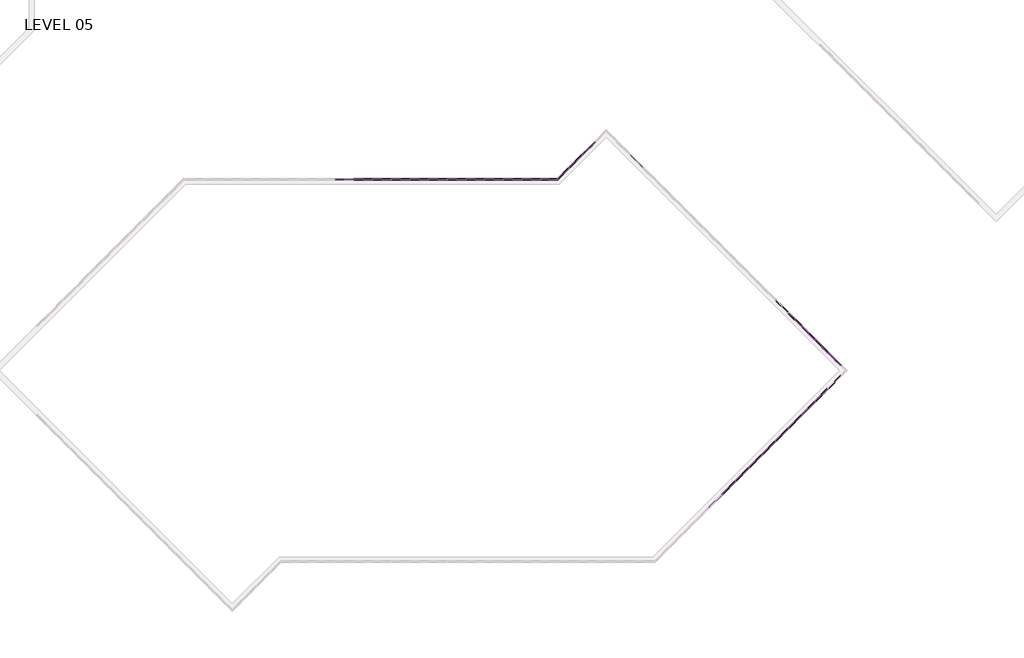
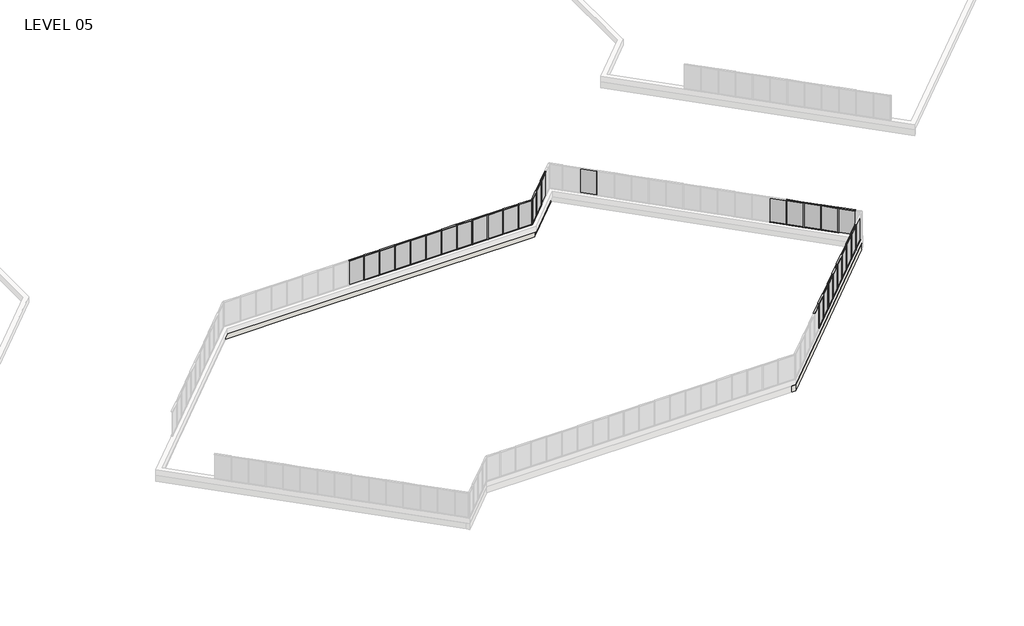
# One storey, part 8 of 17: 82 members, 30 plates, 3 walls.
"""IFC4 building model written with IfcOpenShell, lengths in millimetres."""

from ifc_helpers import new_model, si_unit, frame, origin, place, context, project, spatial, polyline, outline, extrude, faceted_brep, transform, mapped, element, save
from components import member_5247f267, member_e44af9ab, member_800970d4, member_45eb7f2e, plate_67294edd, plate_9c66726c, plate_129ab9d0

model = new_model("IFC4")

# Units and contexts
model_context = context("Model", 3, world=origin())
ifc_project = project(units=[si_unit("LENGTHUNIT", "METRE", prefix="MILLI")], contexts=[model_context])

# Site, building, storey
site = spatial("IfcSite", under=ifc_project)
building = spatial("IfcBuilding", under=site)
storey = spatial("IfcBuildingStorey", under=building, Name="LEVEL 05", Elevation=15824.2)

# Members
placement = place(None, origin())
member_shape = member_5247f267(model_context)
element("IfcMember", 1, ObjectType="Rectangular Mullion : 2\" x 4.5\" rectangular", at=placement, inside=storey, context=model_context, shape_type="MappedRepresentation", body=[
    mapped(member_shape, transform((55642.3943146, 1508.7210511, 15824.2), x_axis=(0.0, 0.0, -1.0), y_axis=(0.7071067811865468, -0.7071067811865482, 0.0), z_axis=(-0.7071067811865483, -0.7071067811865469, 0.0))),
])
element("IfcMember", 2, ObjectType="Rectangular Mullion : 2\" x 4.5\" rectangular", at=placement, inside=storey, context=model_context, shape_type="MappedRepresentation", body=[
    mapped(member_shape, transform((56720.0250491, 2586.3517856, 15824.2), x_axis=(0.0, 0.0, -1.0), y_axis=(0.7071067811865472, -0.7071067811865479, 0.0), z_axis=(-0.7071067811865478, -0.7071067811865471, 0.0))),
])
element("IfcMember", 3, ObjectType="Rectangular Mullion : 2\" x 4.5\" rectangular", at=placement, inside=storey, context=model_context, shape_type="MappedRepresentation", body=[
    mapped(member_shape, transform((57797.6557836, 3663.9825201, 15824.2), x_axis=(0.0, 0.0, -1.0), y_axis=(0.7071067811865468, -0.7071067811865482, 0.0), z_axis=(-0.7071067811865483, -0.7071067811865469, 0.0))),
])
element("IfcMember", 4, ObjectType="Rectangular Mullion : 2\" x 4.5\" rectangular", at=placement, inside=storey, context=model_context, shape_type="MappedRepresentation", body=[
    mapped(member_shape, transform((63185.8094563, 9052.1361928, 15824.2), x_axis=(0.0, 0.0, -1.0), y_axis=(0.7071067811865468, -0.7071067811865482, 0.0), z_axis=(-0.7071067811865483, -0.7071067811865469, 0.0))),
])
element("IfcMember", 5, ObjectType="Rectangular Mullion : 2\" x 4.5\" rectangular", at=placement, inside=storey, context=model_context, shape_type="MappedRepresentation", body=[
    mapped(member_shape, transform((54564.7635801, 431.0903165, 15824.2), x_axis=(0.0, 0.0, -1.0), y_axis=(0.7071067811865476, -0.7071067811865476, 0.0), z_axis=(-0.7071067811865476, -0.7071067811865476, 0.0))),
])
element("IfcMember", 6, ObjectType="Rectangular Mullion : 2\" x 4.5\" rectangular", at=placement, inside=storey, context=model_context, shape_type="MappedRepresentation", body=[
    mapped(member_shape, transform((59952.9172527, 5819.2439892, 15824.2), x_axis=(0.0, 0.0, -1.0), y_axis=(0.7071067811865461, -0.7071067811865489, 0.0), z_axis=(-0.7071067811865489, -0.7071067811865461, 0.0))),
])
element("IfcMember", 7, ObjectType="Rectangular Mullion : 2\" x 4.5\" rectangular", at=placement, inside=storey, context=model_context, shape_type="MappedRepresentation", body=[
    mapped(member_shape, transform((58875.2865182, 4741.6132547, 15824.2), x_axis=(0.0, 0.0, -1.0), y_axis=(0.7071067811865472, -0.7071067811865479, 0.0), z_axis=(-0.7071067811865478, -0.7071067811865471, 0.0))),
])
element("IfcMember", 8, ObjectType="Rectangular Mullion : 2\" x 4.5\" rectangular", at=placement, inside=storey, context=model_context, shape_type="MappedRepresentation", body=[
    mapped(member_shape, transform((61030.5479872, 6896.8747237, 15824.2), x_axis=(0.0, 0.0, -1.0), y_axis=(0.7071067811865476, -0.7071067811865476, 0.0), z_axis=(-0.7071067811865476, -0.7071067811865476, 0.0))),
])
element("IfcMember", 9, ObjectType="Rectangular Mullion : 2\" x 4.5\" rectangular", at=placement, inside=storey, context=model_context, shape_type="MappedRepresentation", body=[
    mapped(member_shape, transform((62108.1787218, 7974.5054582, 15824.2), x_axis=(0.0, 0.0, -1.0), y_axis=(0.7071067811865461, -0.7071067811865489, 0.0), z_axis=(-0.7071067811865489, -0.7071067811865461, 0.0))),
])
element("IfcMember", 10, ObjectType="Rectangular Mullion : 2\" x 4.5\" rectangular", at=placement, inside=storey, context=model_context, shape_type="MappedRepresentation", body=[
    mapped(member_shape, transform((63149.7097592, 11972.0792486, 15824.2), x_axis=(0.0, 0.0, -1.0), y_axis=(0.707106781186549, 0.7071067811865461, 0.0), z_axis=(0.707106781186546, -0.7071067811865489, 0.0))),
])
element("IfcMember", 11, ObjectType="Rectangular Mullion : 2\" x 4.5\" rectangular", at=placement, inside=storey, context=model_context, shape_type="MappedRepresentation", body=[
    mapped(member_shape, transform((62072.0790246, 13049.7099831, 15824.2), x_axis=(0.0, 0.0, -1.0), y_axis=(0.7071067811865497, 0.7071067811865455, 0.0), z_axis=(0.7071067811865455, -0.7071067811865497, 0.0))),
])
element("IfcMember", 12, ObjectType="Rectangular Mullion : 2\" x 4.5\" rectangular", at=placement, inside=storey, context=model_context, shape_type="MappedRepresentation", body=[
    mapped(member_shape, transform((60994.4482901, 14127.3407176, 15824.2), x_axis=(0.0, 0.0, -1.0), y_axis=(0.707106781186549, 0.7071067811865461, 0.0), z_axis=(0.707106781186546, -0.7071067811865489, 0.0))),
])
element("IfcMember", 13, ObjectType="Rectangular Mullion : 2\" x 4.5\" rectangular", at=placement, inside=storey, context=model_context, shape_type="MappedRepresentation", body=[
    mapped(member_shape, transform((59916.8175556, 15204.9714522, 15824.2), x_axis=(0.0, 0.0, -1.0), y_axis=(0.707106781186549, 0.7071067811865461, 0.0), z_axis=(0.707106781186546, -0.7071067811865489, 0.0))),
])
element("IfcMember", 14, ObjectType="Rectangular Mullion : 2\" x 4.5\" rectangular", at=placement, inside=storey, context=model_context, shape_type="MappedRepresentation", body=[
    mapped(member_shape, transform((43110.3767799, 28100.2657877, 15824.2), x_axis=(0.0, 0.0, -1.0), y_axis=(-0.7071067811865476, 0.7071067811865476, 0.0), z_axis=(0.7071067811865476, 0.7071067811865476, 0.0))),
])
element("IfcMember", 15, ObjectType="Rectangular Mullion : 2\" x 4.5\" rectangular", at=placement, inside=storey, context=model_context, shape_type="MappedRepresentation", body=[
    mapped(member_shape, transform((24517.35, 26080.1328721, 15824.2), x_axis=(0.0, 0.0, -1.0), y_axis=(0.0, -1.0, 0.0), z_axis=(-1.0, 0.0, 0.0))),
])
element("IfcMember", 16, ObjectType="Rectangular Mullion : 2\" x 4.5\" rectangular", at=placement, inside=storey, context=model_context, shape_type="MappedRepresentation", body=[
    mapped(member_shape, transform((27565.35, 26080.1328721, 15824.2), x_axis=(0.0, 0.0, -1.0), y_axis=(0.0, -1.0, 0.0), z_axis=(-1.0, 0.0, 0.0))),
])
element("IfcMember", 17, ObjectType="Rectangular Mullion : 2\" x 4.5\" rectangular", at=placement, inside=storey, context=model_context, shape_type="MappedRepresentation", body=[
    mapped(member_shape, transform((29089.35, 26080.1328721, 15824.2), x_axis=(0.0, 0.0, -1.0), y_axis=(0.0, -1.0, 0.0), z_axis=(-1.0, 0.0, 0.0))),
])
element("IfcMember", 18, ObjectType="Rectangular Mullion : 2\" x 4.5\" rectangular", at=placement, inside=storey, context=model_context, shape_type="MappedRepresentation", body=[
    mapped(member_shape, transform((30613.35, 26080.1328721, 15824.2), x_axis=(0.0, 0.0, -1.0), y_axis=(0.0, -1.0, 0.0), z_axis=(-1.0, 0.0, 0.0))),
])
element("IfcMember", 19, ObjectType="Rectangular Mullion : 2\" x 4.5\" rectangular", at=placement, inside=storey, context=model_context, shape_type="MappedRepresentation", body=[
    mapped(member_shape, transform((32137.35, 26080.1328721, 15824.2), x_axis=(0.0, 0.0, -1.0), y_axis=(0.0, -1.0, 0.0), z_axis=(-1.0, 0.0, 0.0))),
])
element("IfcMember", 20, ObjectType="Rectangular Mullion : 2\" x 4.5\" rectangular", at=placement, inside=storey, context=model_context, shape_type="MappedRepresentation", body=[
    mapped(member_shape, transform((35185.35, 26080.1328721, 15824.2), x_axis=(0.0, 0.0, -1.0), y_axis=(0.0, -1.0, 0.0), z_axis=(-1.0, 0.0, 0.0))),
])
element("IfcMember", 21, ObjectType="Rectangular Mullion : 2\" x 4.5\" rectangular", at=placement, inside=storey, context=model_context, shape_type="MappedRepresentation", body=[
    mapped(member_shape, transform((36709.35, 26080.1328721, 15824.2), x_axis=(0.0, 0.0, -1.0), y_axis=(0.0, -1.0, 0.0), z_axis=(-1.0, 0.0, 0.0))),
])
element("IfcMember", 22, ObjectType="Rectangular Mullion : 2\" x 4.5\" rectangular", at=placement, inside=storey, context=model_context, shape_type="MappedRepresentation", body=[
    mapped(member_shape, transform((38233.35, 26080.1328721, 15824.2), x_axis=(0.0, 0.0, -1.0), y_axis=(0.0, -1.0, 0.0), z_axis=(-1.0, 0.0, 0.0))),
])
element("IfcMember", 23, ObjectType="Rectangular Mullion : 2\" x 4.5\" rectangular", at=placement, inside=storey, context=model_context, shape_type="MappedRepresentation", body=[
    mapped(member_shape, transform((33661.35, 26080.1328721, 15824.2), x_axis=(0.0, 0.0, -1.0), y_axis=(0.0, -1.0, 0.0), z_axis=(-1.0, 0.0, 0.0))),
])
element("IfcMember", 24, ObjectType="Rectangular Mullion : 2\" x 4.5\" rectangular", at=placement, inside=storey, context=model_context, shape_type="MappedRepresentation", body=[
    mapped(member_shape, transform((26041.35, 26080.1328721, 15824.2), x_axis=(0.0, 0.0, -1.0), y_axis=(0.0, -1.0, 0.0), z_axis=(-1.0, 0.0, 0.0))),
])
element("IfcMember", 25, ObjectType="Rectangular Mullion : 2\" x 4.5\" rectangular", at=placement, inside=storey, context=model_context, shape_type="MappedRepresentation", body=[
    mapped(member_shape, transform((55606.4732901, 1472.8000266, 18415.0), x_axis=(0.0, 0.0, 1.0), y_axis=(0.7071067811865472, -0.7071067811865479, 0.0), z_axis=(0.7071067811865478, 0.7071067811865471, 0.0))),
])
element("IfcMember", 26, ObjectType="Rectangular Mullion : 2\" x 4.5\" rectangular", at=placement, inside=storey, context=model_context, shape_type="MappedRepresentation", body=[
    mapped(member_shape, transform((56684.1040246, 2550.4307611, 18415.0), x_axis=(0.0, 0.0, 1.0), y_axis=(0.7071067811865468, -0.7071067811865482, 0.0), z_axis=(0.7071067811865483, 0.7071067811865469, 0.0))),
])
element("IfcMember", 27, ObjectType="Rectangular Mullion : 2\" x 4.5\" rectangular", at=placement, inside=storey, context=model_context, shape_type="MappedRepresentation", body=[
    mapped(member_shape, transform((57761.7347592, 3628.0614956, 18415.0), x_axis=(0.0, 0.0, 1.0), y_axis=(0.7071067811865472, -0.7071067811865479, 0.0), z_axis=(0.7071067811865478, 0.7071067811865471, 0.0))),
])
element("IfcMember", 28, ObjectType="Rectangular Mullion : 2\" x 4.5\" rectangular", at=placement, inside=storey, context=model_context, shape_type="MappedRepresentation", body=[
    mapped(member_shape, transform((63149.8884318, 9016.2151683, 18415.0), x_axis=(0.0, 0.0, 1.0), y_axis=(0.7071067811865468, -0.7071067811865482, 0.0), z_axis=(0.7071067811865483, 0.7071067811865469, 0.0))),
])
element("IfcMember", 29, ObjectType="Rectangular Mullion : 2\" x 4.5\" rectangular", at=placement, inside=storey, context=model_context, shape_type="MappedRepresentation", body=[
    mapped(member_shape, transform((54528.8425556, 395.1692921, 18415.0), x_axis=(0.0, 0.0, 1.0), y_axis=(0.7071067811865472, -0.7071067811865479, 0.0), z_axis=(0.7071067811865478, 0.7071067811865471, 0.0))),
])
element("IfcMember", 30, ObjectType="Rectangular Mullion : 2\" x 4.5\" rectangular", at=placement, inside=storey, context=model_context, shape_type="MappedRepresentation", body=[
    mapped(member_shape, transform((59916.9962282, 5783.3229647, 18415.0), x_axis=(0.0, 0.0, 1.0), y_axis=(0.7071067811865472, -0.7071067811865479, 0.0), z_axis=(0.7071067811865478, 0.7071067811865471, 0.0))),
])
element("IfcMember", 31, ObjectType="Rectangular Mullion : 2\" x 4.5\" rectangular", at=placement, inside=storey, context=model_context, shape_type="MappedRepresentation", body=[
    mapped(member_shape, transform((58839.3654937, 4705.6922302, 18415.0), x_axis=(0.0, 0.0, 1.0), y_axis=(0.7071067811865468, -0.7071067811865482, 0.0), z_axis=(0.7071067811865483, 0.7071067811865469, 0.0))),
])
element("IfcMember", 32, ObjectType="Rectangular Mullion : 2\" x 4.5\" rectangular", at=placement, inside=storey, context=model_context, shape_type="MappedRepresentation", body=[
    mapped(member_shape, transform((60994.6269627, 6860.9536992, 18415.0), x_axis=(0.0, 0.0, 1.0), y_axis=(0.7071067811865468, -0.7071067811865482, 0.0), z_axis=(0.7071067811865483, 0.7071067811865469, 0.0))),
])
element("IfcMember", 33, ObjectType="Rectangular Mullion : 2\" x 4.5\" rectangular", at=placement, inside=storey, context=model_context, shape_type="MappedRepresentation", body=[
    mapped(member_shape, transform((62072.2576973, 7938.5844338, 18415.0), x_axis=(0.0, 0.0, 1.0), y_axis=(0.7071067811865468, -0.7071067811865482, 0.0), z_axis=(0.7071067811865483, 0.7071067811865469, 0.0))),
])
element("IfcMember", 34, ObjectType="Rectangular Mullion : 2\" x 4.5\" rectangular", at=placement, inside=storey, context=model_context, shape_type="MappedRepresentation", body=[
    mapped(member_shape, transform((63185.6307836, 11936.1582241, 18415.0), x_axis=(0.0, 0.0, 1.0), y_axis=(0.707106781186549, 0.7071067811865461, 0.0), z_axis=(-0.707106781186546, 0.7071067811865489, 0.0))),
])
element("IfcMember", 35, ObjectType="Rectangular Mullion : 2\" x 4.5\" rectangular", at=placement, inside=storey, context=model_context, shape_type="MappedRepresentation", body=[
    mapped(member_shape, transform((62108.0000491, 13013.7889586, 18415.0), x_axis=(0.0, 0.0, 1.0), y_axis=(0.7071067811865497, 0.7071067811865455, 0.0), z_axis=(-0.7071067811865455, 0.7071067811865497, 0.0))),
])
element("IfcMember", 36, ObjectType="Rectangular Mullion : 2\" x 4.5\" rectangular", at=placement, inside=storey, context=model_context, shape_type="MappedRepresentation", body=[
    mapped(member_shape, transform((61030.3693146, 14091.4196932, 18415.0), x_axis=(0.0, 0.0, 1.0), y_axis=(0.7071067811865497, 0.7071067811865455, 0.0), z_axis=(-0.7071067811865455, 0.7071067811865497, 0.0))),
])
element("IfcMember", 37, ObjectType="Rectangular Mullion : 2\" x 4.5\" rectangular", at=placement, inside=storey, context=model_context, shape_type="MappedRepresentation", body=[
    mapped(member_shape, transform((59952.7385801, 15169.0504277, 18415.0), x_axis=(0.0, 0.0, 1.0), y_axis=(0.707106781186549, 0.7071067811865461, 0.0), z_axis=(-0.707106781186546, 0.7071067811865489, 0.0))),
])
element("IfcMember", 38, ObjectType="Rectangular Mullion : 2\" x 4.5\" rectangular", at=placement, inside=storey, context=model_context, shape_type="MappedRepresentation", body=[
    mapped(member_shape, transform((42068.6670699, 27058.5560776, 18415.0), x_axis=(0.0, 0.0, 1.0), y_axis=(-0.7071067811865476, 0.7071067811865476, 0.0), z_axis=(-0.7071067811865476, -0.7071067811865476, 0.0))),
])
element("IfcMember", 39, ObjectType="Rectangular Mullion : 2\" x 4.5\" rectangular", at=placement, inside=storey, context=model_context, shape_type="MappedRepresentation", body=[
    mapped(member_shape, transform((43146.2978044, 28136.1868122, 18415.0), x_axis=(0.0, 0.0, 1.0), y_axis=(-0.7071067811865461, 0.7071067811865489, 0.0), z_axis=(-0.7071067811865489, -0.7071067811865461, 0.0))),
])
element("IfcMember", 40, ObjectType="Rectangular Mullion : 2\" x 4.5\" rectangular", at=placement, inside=storey, context=model_context, shape_type="MappedRepresentation", body=[
    mapped(member_shape, transform((24466.55, 26080.1328721, 18415.0), x_axis=(0.0, 0.0, 1.0), y_axis=(0.0, -1.0, 0.0), z_axis=(1.0, 0.0, 0.0))),
])
element("IfcMember", 41, ObjectType="Rectangular Mullion : 2\" x 4.5\" rectangular", at=placement, inside=storey, context=model_context, shape_type="MappedRepresentation", body=[
    mapped(member_shape, transform((27514.55, 26080.1328721, 18415.0), x_axis=(0.0, 0.0, 1.0), y_axis=(0.0, -1.0, 0.0), z_axis=(1.0, 0.0, 0.0))),
])
element("IfcMember", 42, ObjectType="Rectangular Mullion : 2\" x 4.5\" rectangular", at=placement, inside=storey, context=model_context, shape_type="MappedRepresentation", body=[
    mapped(member_shape, transform((29038.55, 26080.1328721, 18415.0), x_axis=(0.0, 0.0, 1.0), y_axis=(0.0, -1.0, 0.0), z_axis=(1.0, 0.0, 0.0))),
])
element("IfcMember", 43, ObjectType="Rectangular Mullion : 2\" x 4.5\" rectangular", at=placement, inside=storey, context=model_context, shape_type="MappedRepresentation", body=[
    mapped(member_shape, transform((30562.55, 26080.1328721, 18415.0), x_axis=(0.0, 0.0, 1.0), y_axis=(0.0, -1.0, 0.0), z_axis=(1.0, 0.0, 0.0))),
])
element("IfcMember", 44, ObjectType="Rectangular Mullion : 2\" x 4.5\" rectangular", at=placement, inside=storey, context=model_context, shape_type="MappedRepresentation", body=[
    mapped(member_shape, transform((32086.55, 26080.1328721, 18415.0), x_axis=(0.0, 0.0, 1.0), y_axis=(0.0, -1.0, 0.0), z_axis=(1.0, 0.0, 0.0))),
])
element("IfcMember", 45, ObjectType="Rectangular Mullion : 2\" x 4.5\" rectangular", at=placement, inside=storey, context=model_context, shape_type="MappedRepresentation", body=[
    mapped(member_shape, transform((35134.55, 26080.1328721, 18415.0), x_axis=(0.0, 0.0, 1.0), y_axis=(0.0, -1.0, 0.0), z_axis=(1.0, 0.0, 0.0))),
])
element("IfcMember", 46, ObjectType="Rectangular Mullion : 2\" x 4.5\" rectangular", at=placement, inside=storey, context=model_context, shape_type="MappedRepresentation", body=[
    mapped(member_shape, transform((36658.55, 26080.1328721, 18415.0), x_axis=(0.0, 0.0, 1.0), y_axis=(0.0, -1.0, 0.0), z_axis=(1.0, 0.0, 0.0))),
])
element("IfcMember", 47, ObjectType="Rectangular Mullion : 2\" x 4.5\" rectangular", at=placement, inside=storey, context=model_context, shape_type="MappedRepresentation", body=[
    mapped(member_shape, transform((38182.55, 26080.1328721, 18415.0), x_axis=(0.0, 0.0, 1.0), y_axis=(0.0, -1.0, 0.0), z_axis=(1.0, 0.0, 0.0))),
])
element("IfcMember", 48, ObjectType="Rectangular Mullion : 2\" x 4.5\" rectangular", at=placement, inside=storey, context=model_context, shape_type="MappedRepresentation", body=[
    mapped(member_shape, transform((39706.55, 26080.1328721, 18415.0), x_axis=(0.0, 0.0, 1.0), y_axis=(0.0, -1.0, 0.0), z_axis=(1.0, 0.0, 0.0))),
])
element("IfcMember", 49, ObjectType="Rectangular Mullion : 2\" x 4.5\" rectangular", at=placement, inside=storey, context=model_context, shape_type="MappedRepresentation", body=[
    mapped(member_shape, transform((33610.55, 26080.1328721, 18415.0), x_axis=(0.0, 0.0, 1.0), y_axis=(0.0, -1.0, 0.0), z_axis=(1.0, 0.0, 0.0))),
])
element("IfcMember", 50, ObjectType="Rectangular Mullion : 2\" x 4.5\" rectangular", at=placement, inside=storey, context=model_context, shape_type="MappedRepresentation", body=[
    mapped(member_shape, transform((25990.55, 26080.1328721, 18415.0), x_axis=(0.0, 0.0, 1.0), y_axis=(0.0, -1.0, 0.0), z_axis=(1.0, 0.0, 0.0))),
])
member_2_shape = member_e44af9ab(model_context)
element("IfcMember", 51, ObjectType="Rectangular Mullion : 2\" x 4.5\" rectangular", at=placement, inside=storey, context=model_context, shape_type="MappedRepresentation", body=[
    mapped(member_2_shape, transform((55624.4338023, 1490.7605388, 15824.2), x_axis=(0.7071067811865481, 0.7071067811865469, 0.0), y_axis=(0.7071067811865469, -0.7071067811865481, 0.0), z_axis=(0.0, 0.0, -1.0))),
])
element("IfcMember", 52, ObjectType="Rectangular Mullion : 2\" x 4.5\" rectangular", at=placement, inside=storey, context=model_context, shape_type="MappedRepresentation", body=[
    mapped(member_2_shape, transform((56702.0645369, 2568.3912734, 15824.2), x_axis=(0.7071067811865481, 0.7071067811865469, 0.0), y_axis=(0.7071067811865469, -0.7071067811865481, 0.0), z_axis=(0.0, 0.0, -1.0))),
])
element("IfcMember", 53, ObjectType="Rectangular Mullion : 2\" x 4.5\" rectangular", at=placement, inside=storey, context=model_context, shape_type="MappedRepresentation", body=[
    mapped(member_2_shape, transform((57779.6952714, 3646.0220079, 15824.2), x_axis=(0.7071067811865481, 0.7071067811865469, 0.0), y_axis=(0.7071067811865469, -0.7071067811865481, 0.0), z_axis=(0.0, 0.0, -1.0))),
])
element("IfcMember", 54, ObjectType="Rectangular Mullion : 2\" x 4.5\" rectangular", at=placement, inside=storey, context=model_context, shape_type="MappedRepresentation", body=[
    mapped(member_2_shape, transform((63167.848944, 9034.1756805, 15824.2), x_axis=(0.7071067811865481, 0.7071067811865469, 0.0), y_axis=(0.7071067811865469, -0.7071067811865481, 0.0), z_axis=(0.0, 0.0, -1.0))),
])
element("IfcMember", 55, ObjectType="Rectangular Mullion : 2\" x 4.5\" rectangular", at=placement, inside=storey, context=model_context, shape_type="MappedRepresentation", body=[
    mapped(member_2_shape, transform((54546.8030678, 413.1298043, 15824.2), x_axis=(0.7071067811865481, 0.7071067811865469, 0.0), y_axis=(0.7071067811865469, -0.7071067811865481, 0.0), z_axis=(0.0, 0.0, -1.0))),
])
element("IfcMember", 56, ObjectType="Rectangular Mullion : 2\" x 4.5\" rectangular", at=placement, inside=storey, context=model_context, shape_type="MappedRepresentation", body=[
    mapped(member_2_shape, transform((59934.9567405, 5801.2834769, 15824.2), x_axis=(0.7071067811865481, 0.7071067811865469, 0.0), y_axis=(0.7071067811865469, -0.7071067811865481, 0.0), z_axis=(0.0, 0.0, -1.0))),
])
element("IfcMember", 57, ObjectType="Rectangular Mullion : 2\" x 4.5\" rectangular", at=placement, inside=storey, context=model_context, shape_type="MappedRepresentation", body=[
    mapped(member_2_shape, transform((58857.3260059, 4723.6527424, 15824.2), x_axis=(0.7071067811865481, 0.7071067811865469, 0.0), y_axis=(0.7071067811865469, -0.7071067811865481, 0.0), z_axis=(0.0, 0.0, -1.0))),
])
element("IfcMember", 58, ObjectType="Rectangular Mullion : 2\" x 4.5\" rectangular", at=placement, inside=storey, context=model_context, shape_type="MappedRepresentation", body=[
    mapped(member_2_shape, transform((61012.587475, 6878.9142115, 15824.2), x_axis=(0.7071067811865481, 0.7071067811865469, 0.0), y_axis=(0.7071067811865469, -0.7071067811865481, 0.0), z_axis=(0.0, 0.0, -1.0))),
])
element("IfcMember", 59, ObjectType="Rectangular Mullion : 2\" x 4.5\" rectangular", at=placement, inside=storey, context=model_context, shape_type="MappedRepresentation", body=[
    mapped(member_2_shape, transform((62090.2182095, 7956.544946, 15824.2), x_axis=(0.7071067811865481, 0.7071067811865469, 0.0), y_axis=(0.7071067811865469, -0.7071067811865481, 0.0), z_axis=(0.0, 0.0, -1.0))),
])
element("IfcMember", 60, ObjectType="Rectangular Mullion : 2\" x 4.5\" rectangular", at=placement, inside=storey, context=model_context, shape_type="MappedRepresentation", body=[
    mapped(member_2_shape, transform((63167.6702714, 11954.1187363, 15824.2), x_axis=(-0.7071067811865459, 0.7071067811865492, 0.0), y_axis=(0.7071067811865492, 0.7071067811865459, 0.0), z_axis=(0.0, 0.0, -1.0))),
])
element("IfcMember", 61, ObjectType="Rectangular Mullion : 2\" x 4.5\" rectangular", at=placement, inside=storey, context=model_context, shape_type="MappedRepresentation", body=[
    mapped(member_2_shape, transform((62090.0395369, 13031.7494709, 15824.2), x_axis=(-0.7071067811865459, 0.7071067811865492, 0.0), y_axis=(0.7071067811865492, 0.7071067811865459, 0.0), z_axis=(0.0, 0.0, -1.0))),
])
element("IfcMember", 62, ObjectType="Rectangular Mullion : 2\" x 4.5\" rectangular", at=placement, inside=storey, context=model_context, shape_type="MappedRepresentation", body=[
    mapped(member_2_shape, transform((61012.4088023, 14109.3802054, 15824.2), x_axis=(-0.7071067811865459, 0.7071067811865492, 0.0), y_axis=(0.7071067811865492, 0.7071067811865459, 0.0), z_axis=(0.0, 0.0, -1.0))),
])
element("IfcMember", 63, ObjectType="Rectangular Mullion : 2\" x 4.5\" rectangular", at=placement, inside=storey, context=model_context, shape_type="MappedRepresentation", body=[
    mapped(member_2_shape, transform((59934.7780678, 15187.0109399, 15824.2), x_axis=(-0.7071067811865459, 0.7071067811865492, 0.0), y_axis=(0.7071067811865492, 0.7071067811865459, 0.0), z_axis=(0.0, 0.0, -1.0))),
])
element("IfcMember", 64, ObjectType="Rectangular Mullion : 2\" x 4.5\" rectangular", at=placement, inside=storey, context=model_context, shape_type="MappedRepresentation", body=[
    mapped(member_2_shape, transform((42050.7065576, 27040.5955654, 15824.2), x_axis=(-0.7071067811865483, -0.7071067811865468, 0.0), y_axis=(-0.7071067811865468, 0.7071067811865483, 0.0), z_axis=(0.0, 0.0, -1.0))),
])
element("IfcMember", 65, ObjectType="Rectangular Mullion : 2\" x 4.5\" rectangular", at=placement, inside=storey, context=model_context, shape_type="MappedRepresentation", body=[
    mapped(member_2_shape, transform((43128.3372922, 28118.2262999, 15824.2), x_axis=(-0.7071067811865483, -0.7071067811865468, 0.0), y_axis=(-0.7071067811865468, 0.7071067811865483, 0.0), z_axis=(0.0, 0.0, -1.0))),
])
element("IfcMember", 66, ObjectType="Rectangular Mullion : 2\" x 4.5\" rectangular", at=placement, inside=storey, context=model_context, shape_type="MappedRepresentation", body=[
    mapped(member_2_shape, transform((24491.95, 26080.1328721, 15824.2), x_axis=(1.0, 0.0, 0.0), y_axis=(0.0, -1.0, 0.0), z_axis=(0.0, 0.0, -1.0))),
])
element("IfcMember", 67, ObjectType="Rectangular Mullion : 2\" x 4.5\" rectangular", at=placement, inside=storey, context=model_context, shape_type="MappedRepresentation", body=[
    mapped(member_2_shape, transform((27539.95, 26080.1328721, 15824.2), x_axis=(1.0, 0.0, 0.0), y_axis=(0.0, -1.0, 0.0), z_axis=(0.0, 0.0, -1.0))),
])
element("IfcMember", 68, ObjectType="Rectangular Mullion : 2\" x 4.5\" rectangular", at=placement, inside=storey, context=model_context, shape_type="MappedRepresentation", body=[
    mapped(member_2_shape, transform((29063.95, 26080.1328721, 15824.2), x_axis=(1.0, 0.0, 0.0), y_axis=(0.0, -1.0, 0.0), z_axis=(0.0, 0.0, -1.0))),
])
element("IfcMember", 69, ObjectType="Rectangular Mullion : 2\" x 4.5\" rectangular", at=placement, inside=storey, context=model_context, shape_type="MappedRepresentation", body=[
    mapped(member_2_shape, transform((30587.95, 26080.1328721, 15824.2), x_axis=(1.0, 0.0, 0.0), y_axis=(0.0, -1.0, 0.0), z_axis=(0.0, 0.0, -1.0))),
])
element("IfcMember", 70, ObjectType="Rectangular Mullion : 2\" x 4.5\" rectangular", at=placement, inside=storey, context=model_context, shape_type="MappedRepresentation", body=[
    mapped(member_2_shape, transform((32111.95, 26080.1328721, 15824.2), x_axis=(1.0, 0.0, 0.0), y_axis=(0.0, -1.0, 0.0), z_axis=(0.0, 0.0, -1.0))),
])
element("IfcMember", 71, ObjectType="Rectangular Mullion : 2\" x 4.5\" rectangular", at=placement, inside=storey, context=model_context, shape_type="MappedRepresentation", body=[
    mapped(member_2_shape, transform((35159.95, 26080.1328721, 15824.2), x_axis=(1.0, 0.0, 0.0), y_axis=(0.0, -1.0, 0.0), z_axis=(0.0, 0.0, -1.0))),
])
element("IfcMember", 72, ObjectType="Rectangular Mullion : 2\" x 4.5\" rectangular", at=placement, inside=storey, context=model_context, shape_type="MappedRepresentation", body=[
    mapped(member_2_shape, transform((36683.95, 26080.1328721, 15824.2), x_axis=(1.0, 0.0, 0.0), y_axis=(0.0, -1.0, 0.0), z_axis=(0.0, 0.0, -1.0))),
])
element("IfcMember", 73, ObjectType="Rectangular Mullion : 2\" x 4.5\" rectangular", at=placement, inside=storey, context=model_context, shape_type="MappedRepresentation", body=[
    mapped(member_2_shape, transform((38207.95, 26080.1328721, 15824.2), x_axis=(1.0, 0.0, 0.0), y_axis=(0.0, -1.0, 0.0), z_axis=(0.0, 0.0, -1.0))),
])
element("IfcMember", 74, ObjectType="Rectangular Mullion : 2\" x 4.5\" rectangular", at=placement, inside=storey, context=model_context, shape_type="MappedRepresentation", body=[
    mapped(member_2_shape, transform((39731.95, 26080.1328721, 15824.2), x_axis=(1.0, 0.0, 0.0), y_axis=(0.0, -1.0, 0.0), z_axis=(0.0, 0.0, -1.0))),
])
element("IfcMember", 75, ObjectType="Rectangular Mullion : 2\" x 4.5\" rectangular", at=placement, inside=storey, context=model_context, shape_type="MappedRepresentation", body=[
    mapped(member_2_shape, transform((33635.95, 26080.1328721, 15824.2), x_axis=(1.0, 0.0, 0.0), y_axis=(0.0, -1.0, 0.0), z_axis=(0.0, 0.0, -1.0))),
])
element("IfcMember", 76, ObjectType="Rectangular Mullion : 2\" x 4.5\" rectangular", at=placement, inside=storey, context=model_context, shape_type="MappedRepresentation", body=[
    mapped(member_2_shape, transform((26015.95, 26080.1328721, 15824.2), x_axis=(1.0, 0.0, 0.0), y_axis=(0.0, -1.0, 0.0), z_axis=(0.0, 0.0, -1.0))),
])
member_3_shape = member_800970d4(model_context)
element("IfcMember", 77, ObjectType="Rectangular Mullion : 2\" x 4.5\" rectangular", at=placement, inside=storey, context=model_context, shape_type="MappedRepresentation", body=[
    mapped(member_3_shape, transform((41090.2438644, 26080.1328721, 15824.2), x_axis=(-0.7071067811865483, -0.7071067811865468, 0.0), y_axis=(-0.7071067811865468, 0.7071067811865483, 0.0), z_axis=(0.0, 0.0, -1.0))),
])
element("IfcMember", 78, ObjectType="Rectangular Mullion : 2\" x 4.5\" rectangular", at=placement, inside=storey, context=model_context, shape_type="MappedRepresentation", body=[
    mapped(member_3_shape, transform((41090.2438644, 26080.1328721, 15824.2), x_axis=(1.0, 0.0, 0.0), y_axis=(0.0, -1.0, 0.0), z_axis=(0.0, 0.0, -1.0))),
])
member_4_shape = member_45eb7f2e(model_context)
element("IfcMember", 79, ObjectType="Rectangular Mullion : 2\" x 4.5\" rectangular", at=placement, inside=storey, context=model_context, shape_type="MappedRepresentation", body=[
    mapped(member_4_shape, transform((41126.1648889, 26116.0538966, 18415.0), x_axis=(0.0, 0.0, 1.0), y_axis=(-0.7071067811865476, 0.7071067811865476, 0.0), z_axis=(-0.7071067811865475, -0.7071067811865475, 0.0))),
])
element("IfcMember", 80, ObjectType="Rectangular Mullion : 2\" x 4.5\" rectangular", at=placement, inside=storey, context=model_context, shape_type="MappedRepresentation", body=[
    mapped(member_4_shape, transform((41039.4438644, 26080.1328721, 18415.0), x_axis=(0.0, 0.0, 1.0), y_axis=(0.0, -1.0, 0.0), z_axis=(1.0, 0.0, 0.0))),
])
element("IfcMember", 81, ObjectType="Rectangular Mullion : 2\" x 4.5\" rectangular", at=placement, inside=storey, context=model_context, shape_type="MappedRepresentation", body=[
    mapped(member_4_shape, transform((42032.7460454, 27022.6350531, 15824.2), x_axis=(0.0, 0.0, -1.0), y_axis=(-0.7071067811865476, 0.7071067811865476, 0.0), z_axis=(0.7071067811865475, 0.7071067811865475, 0.0))),
])
element("IfcMember", 82, ObjectType="Rectangular Mullion : 2\" x 4.5\" rectangular", at=placement, inside=storey, context=model_context, shape_type="MappedRepresentation", body=[
    mapped(member_4_shape, transform((39757.35, 26080.1328721, 15824.2), x_axis=(0.0, 0.0, -1.0), y_axis=(0.0, -1.0, 0.0), z_axis=(-1.0, 0.0, 0.0))),
])

# Plates
plate_shape = plate_67294edd(model_context)
element("IfcPlate", 83, ObjectType="System Panel : 1/4\" Glass", at=placement, inside=storey, context=model_context, shape_type="MappedRepresentation", body=[
    mapped(plate_shape, transform((56163.2491696, 2029.5759061, 15875.0), x_axis=(0.7071067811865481, 0.7071067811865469, 0.0), y_axis=(-0.7071067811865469, 0.7071067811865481, 0.0), z_axis=(0.0, 0.0, 1.0))),
])
element("IfcPlate", 84, ObjectType="System Panel : 1/4\" Glass", at=placement, inside=storey, context=model_context, shape_type="MappedRepresentation", body=[
    mapped(plate_shape, transform((57240.8799041, 3107.2066406, 15875.0), x_axis=(0.7071067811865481, 0.7071067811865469, 0.0), y_axis=(-0.7071067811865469, 0.7071067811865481, 0.0), z_axis=(0.0, 0.0, 1.0))),
])
element("IfcPlate", 85, ObjectType="System Panel : 1/4\" Glass", at=placement, inside=storey, context=model_context, shape_type="MappedRepresentation", body=[
    mapped(plate_shape, transform((58318.5106387, 4184.8373752, 15875.0), x_axis=(0.7071067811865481, 0.7071067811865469, 0.0), y_axis=(-0.7071067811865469, 0.7071067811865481, 0.0), z_axis=(0.0, 0.0, 1.0))),
])
element("IfcPlate", 86, ObjectType="System Panel : 1/4\" Glass", at=placement, inside=storey, context=model_context, shape_type="MappedRepresentation", body=[
    mapped(plate_shape, transform((63706.6643113, 9572.9910478, 15875.0), x_axis=(0.7071067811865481, 0.7071067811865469, 0.0), y_axis=(-0.7071067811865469, 0.7071067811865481, 0.0), z_axis=(0.0, 0.0, 1.0))),
])
element("IfcPlate", 87, ObjectType="System Panel : 1/4\" Glass", at=placement, inside=storey, context=model_context, shape_type="MappedRepresentation", body=[
    mapped(plate_shape, transform((55085.6184351, 951.9451716, 15875.0), x_axis=(0.7071067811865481, 0.7071067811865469, 0.0), y_axis=(-0.7071067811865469, 0.7071067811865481, 0.0), z_axis=(0.0, 0.0, 1.0))),
])
element("IfcPlate", 88, ObjectType="System Panel : 1/4\" Glass", at=placement, inside=storey, context=model_context, shape_type="MappedRepresentation", body=[
    mapped(plate_shape, transform((60473.7721077, 6340.0988442, 15875.0), x_axis=(0.7071067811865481, 0.7071067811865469, 0.0), y_axis=(-0.7071067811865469, 0.7071067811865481, 0.0), z_axis=(0.0, 0.0, 1.0))),
])
element("IfcPlate", 89, ObjectType="System Panel : 1/4\" Glass", at=placement, inside=storey, context=model_context, shape_type="MappedRepresentation", body=[
    mapped(plate_shape, transform((59396.1413732, 5262.4681097, 15875.0), x_axis=(0.7071067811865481, 0.7071067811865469, 0.0), y_axis=(-0.7071067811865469, 0.7071067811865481, 0.0), z_axis=(0.0, 0.0, 1.0))),
])
element("IfcPlate", 90, ObjectType="System Panel : 1/4\" Glass", at=placement, inside=storey, context=model_context, shape_type="MappedRepresentation", body=[
    mapped(plate_shape, transform((61551.4028422, 7417.7295787, 15875.0), x_axis=(0.7071067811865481, 0.7071067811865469, 0.0), y_axis=(-0.7071067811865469, 0.7071067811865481, 0.0), z_axis=(0.0, 0.0, 1.0))),
])
element("IfcPlate", 91, ObjectType="System Panel : 1/4\" Glass", at=placement, inside=storey, context=model_context, shape_type="MappedRepresentation", body=[
    mapped(plate_shape, transform((62629.0335768, 8495.3603133, 15875.0), x_axis=(0.7071067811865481, 0.7071067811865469, 0.0), y_axis=(-0.7071067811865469, 0.7071067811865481, 0.0), z_axis=(0.0, 0.0, 1.0))),
])
element("IfcPlate", 92, ObjectType="System Panel : 1/4\" Glass", at=placement, inside=storey, context=model_context, shape_type="MappedRepresentation", body=[
    mapped(plate_shape, transform((62628.8549041, 12492.9341036, 15875.0), x_axis=(-0.7071067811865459, 0.7071067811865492, 0.0), y_axis=(-0.7071067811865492, -0.7071067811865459, 0.0), z_axis=(0.0, 0.0, 1.0))),
])
element("IfcPlate", 93, ObjectType="System Panel : 1/4\" Glass", at=placement, inside=storey, context=model_context, shape_type="MappedRepresentation", body=[
    mapped(plate_shape, transform((61551.2241696, 13570.5648381, 15875.0), x_axis=(-0.7071067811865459, 0.7071067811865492, 0.0), y_axis=(-0.7071067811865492, -0.7071067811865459, 0.0), z_axis=(0.0, 0.0, 1.0))),
])
element("IfcPlate", 94, ObjectType="System Panel : 1/4\" Glass", at=placement, inside=storey, context=model_context, shape_type="MappedRepresentation", body=[
    mapped(plate_shape, transform((60473.5934351, 14648.1955727, 15875.0), x_axis=(-0.7071067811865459, 0.7071067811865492, 0.0), y_axis=(-0.7071067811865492, -0.7071067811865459, 0.0), z_axis=(0.0, 0.0, 1.0))),
])
element("IfcPlate", 95, ObjectType="System Panel : 1/4\" Glass", at=placement, inside=storey, context=model_context, shape_type="MappedRepresentation", body=[
    mapped(plate_shape, transform((59395.9627005, 15725.8263072, 15875.0), x_axis=(-0.7071067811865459, 0.7071067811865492, 0.0), y_axis=(-0.7071067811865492, -0.7071067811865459, 0.0), z_axis=(0.0, 0.0, 1.0))),
])
element("IfcPlate", 96, ObjectType="System Panel : 1/4\" Glass", at=placement, inside=storey, context=model_context, shape_type="MappedRepresentation", body=[
    mapped(plate_shape, transform((63706.4856387, 11415.3033691, 15875.0), x_axis=(-0.7071067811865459, 0.7071067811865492, 0.0), y_axis=(-0.7071067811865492, -0.7071067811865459, 0.0), z_axis=(0.0, 0.0, 1.0))),
])
element("IfcPlate", 97, ObjectType="System Panel : 1/4\" Glass", at=placement, inside=storey, context=model_context, shape_type="MappedRepresentation", body=[
    mapped(plate_shape, transform((47542.381966, 27579.4070417, 15875.0), x_axis=(-0.7071067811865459, 0.7071067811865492, 0.0), y_axis=(-0.7071067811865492, -0.7071067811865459, 0.0), z_axis=(0.0, 0.0, 1.0))),
])
element("IfcPlate", 98, ObjectType="System Panel : 1/4\" Glass", at=placement, inside=storey, context=model_context, shape_type="MappedRepresentation", body=[
    mapped(plate_shape, transform((43667.1526594, 28657.0416672, 15875.0), x_axis=(-0.7071067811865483, -0.7071067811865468, 0.0), y_axis=(0.7071067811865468, -0.7071067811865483, 0.0), z_axis=(0.0, 0.0, 1.0))),
])
element("IfcPlate", 99, ObjectType="System Panel : 1/4\" Glass", at=placement, inside=storey, context=model_context, shape_type="MappedRepresentation", body=[
    mapped(plate_shape, transform((42589.5219249, 27579.4109327, 15875.0), x_axis=(-0.7071067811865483, -0.7071067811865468, 0.0), y_axis=(0.7071067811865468, -0.7071067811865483, 0.0), z_axis=(0.0, 0.0, 1.0))),
])
element("IfcPlate", 100, ObjectType="System Panel : 1/4\" Glass", at=placement, inside=storey, context=model_context, shape_type="MappedRepresentation", body=[
    mapped(plate_shape, transform((23729.95, 26080.1328721, 15875.0), x_axis=(1.0, 0.0, 0.0), y_axis=(0.0, 1.0, 0.0), z_axis=(0.0, 0.0, 1.0))),
])
element("IfcPlate", 101, ObjectType="System Panel : 1/4\" Glass", at=placement, inside=storey, context=model_context, shape_type="MappedRepresentation", body=[
    mapped(plate_shape, transform((25253.95, 26080.1328721, 15875.0), x_axis=(1.0, 0.0, 0.0), y_axis=(0.0, 1.0, 0.0), z_axis=(0.0, 0.0, 1.0))),
])
element("IfcPlate", 102, ObjectType="System Panel : 1/4\" Glass", at=placement, inside=storey, context=model_context, shape_type="MappedRepresentation", body=[
    mapped(plate_shape, transform((28301.95, 26080.1328721, 15875.0), x_axis=(1.0, 0.0, 0.0), y_axis=(0.0, 1.0, 0.0), z_axis=(0.0, 0.0, 1.0))),
])
element("IfcPlate", 103, ObjectType="System Panel : 1/4\" Glass", at=placement, inside=storey, context=model_context, shape_type="MappedRepresentation", body=[
    mapped(plate_shape, transform((29825.95, 26080.1328721, 15875.0), x_axis=(1.0, 0.0, 0.0), y_axis=(0.0, 1.0, 0.0), z_axis=(0.0, 0.0, 1.0))),
])
element("IfcPlate", 104, ObjectType="System Panel : 1/4\" Glass", at=placement, inside=storey, context=model_context, shape_type="MappedRepresentation", body=[
    mapped(plate_shape, transform((31349.95, 26080.1328721, 15875.0), x_axis=(1.0, 0.0, 0.0), y_axis=(0.0, 1.0, 0.0), z_axis=(0.0, 0.0, 1.0))),
])
element("IfcPlate", 105, ObjectType="System Panel : 1/4\" Glass", at=placement, inside=storey, context=model_context, shape_type="MappedRepresentation", body=[
    mapped(plate_shape, transform((32873.95, 26080.1328721, 15875.0), x_axis=(1.0, 0.0, 0.0), y_axis=(0.0, 1.0, 0.0), z_axis=(0.0, 0.0, 1.0))),
])
element("IfcPlate", 106, ObjectType="System Panel : 1/4\" Glass", at=placement, inside=storey, context=model_context, shape_type="MappedRepresentation", body=[
    mapped(plate_shape, transform((35921.95, 26080.1328721, 15875.0), x_axis=(1.0, 0.0, 0.0), y_axis=(0.0, 1.0, 0.0), z_axis=(0.0, 0.0, 1.0))),
])
element("IfcPlate", 107, ObjectType="System Panel : 1/4\" Glass", at=placement, inside=storey, context=model_context, shape_type="MappedRepresentation", body=[
    mapped(plate_shape, transform((37445.95, 26080.1328721, 15875.0), x_axis=(1.0, 0.0, 0.0), y_axis=(0.0, 1.0, 0.0), z_axis=(0.0, 0.0, 1.0))),
])
element("IfcPlate", 108, ObjectType="System Panel : 1/4\" Glass", at=placement, inside=storey, context=model_context, shape_type="MappedRepresentation", body=[
    mapped(plate_shape, transform((38969.95, 26080.1328721, 15875.0), x_axis=(1.0, 0.0, 0.0), y_axis=(0.0, 1.0, 0.0), z_axis=(0.0, 0.0, 1.0))),
])
element("IfcPlate", 109, ObjectType="System Panel : 1/4\" Glass", at=placement, inside=storey, context=model_context, shape_type="MappedRepresentation", body=[
    mapped(plate_shape, transform((34397.95, 26080.1328721, 15875.0), x_axis=(1.0, 0.0, 0.0), y_axis=(0.0, 1.0, 0.0), z_axis=(0.0, 0.0, 1.0))),
])
element("IfcPlate", 110, ObjectType="System Panel : 1/4\" Glass", at=placement, inside=storey, context=model_context, shape_type="MappedRepresentation", body=[
    mapped(plate_shape, transform((26777.95, 26080.1328721, 15875.0), x_axis=(1.0, 0.0, 0.0), y_axis=(0.0, 1.0, 0.0), z_axis=(0.0, 0.0, 1.0))),
])
plate_2_shape = plate_9c66726c(model_context)
element("IfcPlate", 111, ObjectType="System Panel : 1/4\" Glass", at=placement, inside=storey, context=model_context, shape_type="MappedRepresentation", body=[
    mapped(plate_2_shape, transform((40398.3969322, 26080.1328721, 15875.0), x_axis=(1.0, 0.0, 0.0), y_axis=(0.0, 1.0, 0.0), z_axis=(0.0, 0.0, 1.0))),
])
plate_3_shape = plate_129ab9d0(model_context)
element("IfcPlate", 112, ObjectType="System Panel : 1/4\" Glass", at=placement, inside=storey, context=model_context, shape_type="MappedRepresentation", body=[
    mapped(plate_3_shape, transform((41579.4554671, 26569.3444749, 15875.0), x_axis=(-0.7071067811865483, -0.7071067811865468, 0.0), y_axis=(0.7071067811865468, -0.7071067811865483, 0.0), z_axis=(0.0, 0.0, 1.0))),
])

# Walls
element("IfcWall", 113, ObjectType="01-CONCRETE-12", at=placement, inside=storey, context=model_context, shape_type="Brep", body=[
    faceted_brep([(10281.7715593, 25832.4828721, 14643.1), (10712.8238531, 25832.4828721, 14643.1), (10995.0863917, 25832.4828721, 14643.1), (18091.15, 25832.4828721, 14643.1), (18700.75, 25832.4828721, 14643.1), (25711.15, 25832.4828721, 14643.1), (26320.75, 25832.4828721, 14643.1), (33331.15, 25832.4828721, 14643.1), (33940.75, 25832.4828721, 14643.1), (40951.15, 25832.4828721, 14643.1), (41192.8238531, 25832.4828721, 14643.1), (41192.8238531, 25832.4828721, 15265.4), (40951.15, 25832.4828721, 15265.4), (33940.75, 25832.4828721, 15265.4), (33331.15, 25832.4828721, 15265.4), (26320.75, 25832.4828721, 15265.4), (25711.15, 25832.4828721, 15265.4), (18700.75, 25832.4828721, 15265.4), (18091.15, 25832.4828721, 15265.4), (10995.0863917, 25832.4828721, 15265.4), (10712.8238531, 25832.4828721, 15265.4), (10281.7715593, 25832.4828721, 15265.4), (10586.5715593, 26137.2828721, 14643.1), (10586.5715593, 26137.2828721, 15265.4), (41066.5715593, 26137.2828721, 15265.4), (41497.6238531, 26137.2828721, 15265.4), (41497.6238531, 26137.2828721, 14643.1), (41066.5715593, 26137.2828721, 14643.1), (41243.6238531, 25883.2828721, 14643.1), (41243.6238531, 25883.2828721, 15265.4)], [[[0, 1, 2, 3, 4, 5, 6, 7, 8, 9, 10, 11, 12, 13, 14, 15, 16, 17, 18, 19, 20, 21]], [[22, 23, 24, 25, 26, 27]], [[10, 9, 8, 7, 6, 5, 4, 3, 2, 1, 0, 22, 27, 26, 28]], [[21, 20, 19, 18, 17, 16, 15, 14, 13, 12, 11, 29, 25, 24, 23]], [[11, 10, 28, 26, 25, 29]], [[0, 21, 23, 22]]]),
])
element("IfcWall", 114, ObjectType="01-CONCRETE-12", at=placement, inside=storey, context=model_context, shape_type="SweptSolid", body=[
    extrude(outline(polyline([(45065.95, 29705.609019), (41497.6238531, 26137.2828721), (41066.5715593, 26137.2828721), (44850.4238531, 29921.1351659), (45065.95, 29705.609019)])), frame((0.0, 0.0, 14643.1), z_axis=(0.0, 0.0, 1.0), x_axis=(1.0, 0.0, 0.0)), (0.0, 0.0, 1.0), 622.3),
])
element("IfcWall", 115, ObjectType="01-CONCRETE-12", at=placement, inside=storey, context=model_context, shape_type="Brep", body=[
    faceted_brep([(64277.5011469, 10494.0578721, 14643.1), (48939.0761469, -4844.3671279, 14643.1), (48634.2761469, -5149.1671279, 14643.1), (48634.2761469, -5149.1671279, 15265.4), (48939.0761469, -4844.3671279, 15265.4), (64277.5011469, 10494.0578721, 15265.4), (64493.0272938, 10278.5317252, 14643.1), (64493.0272938, 10278.5317252, 15265.4), (49065.3284407, -5149.1671279, 15265.4), (49065.3284407, -5149.1671279, 14643.1)], [[[0, 1, 2, 3, 4, 5]], [[6, 7, 8, 9]], [[2, 1, 0, 6, 9]], [[5, 4, 3, 8, 7]], [[3, 2, 9, 8]], [[0, 5, 7, 6]]]),
])

save(model, "model.ifc")
